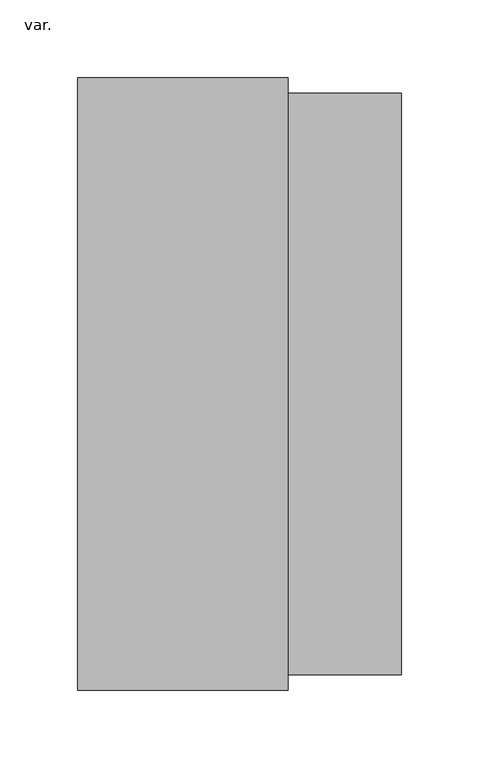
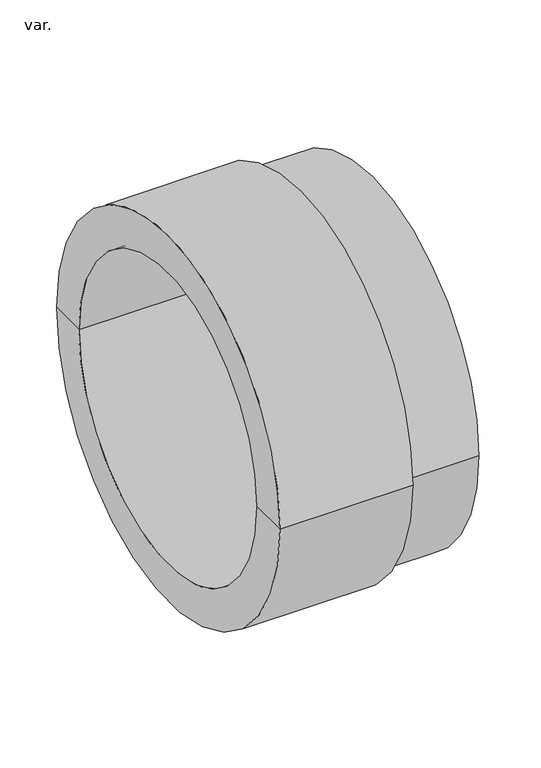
"""IFC4 building model written with IfcOpenShell, lengths in millimetres: pipe fitting geometry, PavcoWavin_UnionesDeTubería_NoUsarConectorSalida : var.."""

from ifc_helpers import new_model, si_unit, frame, origin, place, context, project, spatial, polyline, circle_curve, source, transform, mapped, element, save
from ifc_brep_helpers import plane_surface, cylinder_surface, revolved_surface, advanced_brep


def var_7e720924(model_context):
    return source(origin(), model_context, "Body", "AdvancedBrep", [
        advanced_brep(
        [(139.7546411, 187.5, 0.0), (139.7546411, 157.5, 0.0), (139.7546411, -157.5, 0.0), (139.7546411, -187.5, 0.0), (66.6046411, 187.5, 0.0), (66.6046411, -187.5, 0.0), (66.6046411, 197.5, 0.0), (66.6046411, -197.5, 0.0), (-69.2453589, 197.5, 0.0), (-69.2453589, -197.5, 0.0), (-69.2453589, 157.5, 0.0), (-69.2453589, -157.5, 0.0)],
        [
            (0, 1),
            (1, 2, circle_curve(frame((139.7546411, 0.0, 0.0), z_axis=(-1.0, 0.0, 0.0), x_axis=(0.0, -1.0, 0.0)), 157.5)),
            (2, 3),
            (3, 0, circle_curve(frame((139.7546411, 0.0, 0.0), z_axis=(1.0, 0.0, 0.0), x_axis=(0.0, -1.0, 0.0)), 187.5)),
            (2, 1, circle_curve(frame((139.7546411, 0.0, 0.0), z_axis=(-1.0, 0.0, 0.0), x_axis=(0.0, -1.0, 0.0)), 157.5)),
            (0, 3, circle_curve(frame((139.7546411, 0.0, 0.0), z_axis=(1.0, 0.0, 0.0), x_axis=(0.0, -1.0, 0.0)), 187.5)),
            (4, 0),
            (3, 5),
            (5, 4, circle_curve(frame((66.6046411, 0.0, 0.0), z_axis=(1.0, 0.0, 0.0), x_axis=(0.0, -1.0, 0.0)), 187.5)),
            (4, 5, circle_curve(frame((66.6046411, 0.0, 0.0), z_axis=(1.0, 0.0, 0.0), x_axis=(0.0, -1.0, 0.0)), 187.5)),
            (6, 4),
            (5, 7),
            (7, 6, circle_curve(frame((66.6046411, 0.0, 0.0), z_axis=(1.0, 0.0, 0.0), x_axis=(0.0, -1.0, 0.0)), 197.5)),
            (6, 7, circle_curve(frame((66.6046411, 0.0, 0.0), z_axis=(1.0, 0.0, 0.0), x_axis=(0.0, -1.0, 0.0)), 197.5)),
            (8, 6),
            (7, 9),
            (9, 8, circle_curve(frame((-69.2453589, 0.0, 0.0), z_axis=(1.0, 0.0, 0.0), x_axis=(0.0, -1.0, 0.0)), 197.5)),
            (8, 9, circle_curve(frame((-69.2453589, 0.0, 0.0), z_axis=(1.0, 0.0, 0.0), x_axis=(0.0, -1.0, 0.0)), 197.5)),
            (10, 8),
            (9, 11),
            (11, 10, circle_curve(frame((-69.2453589, 0.0, 0.0), z_axis=(1.0, 0.0, 0.0), x_axis=(0.0, -1.0, 0.0)), 157.5)),
            (10, 11, circle_curve(frame((-69.2453589, 0.0, 0.0), z_axis=(1.0, 0.0, 0.0), x_axis=(0.0, -1.0, 0.0)), 157.5)),
            (1, 10),
            (11, 2),
        ],
        [
            plane_surface(frame((139.7546411, 0.0, 0.0), z_axis=(1.0, 0.0, 0.0), x_axis=(0.0, -1.0, 0.0))),
            cylinder_surface(frame((-69.2453589, 0.0, 0.0), z_axis=(-1.0, 0.0, 0.0), x_axis=(0.0, -1.0, 0.0)), 187.5),
            plane_surface(frame((66.6046411, 0.0, 0.0), z_axis=(1.0, 0.0, 0.0), x_axis=(0.0, -1.0, 0.0))),
            cylinder_surface(frame((-69.2453589, 0.0, 0.0), z_axis=(-1.0, 0.0, 0.0), x_axis=(0.0, -1.0, 0.0)), 197.5),
            plane_surface(frame((-69.2453589, 0.0, 0.0), z_axis=(-1.0, 0.0, 0.0), x_axis=(0.0, -1.0, 0.0))),
            revolved_surface(polyline([(-69.2453589, -157.5, 0.0), (139.75464110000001, -157.5, 0.0)]), (-69.2453589, 0.0, 0.0), (-1.0, 0.0, 0.0)),
        ],
        [
            (0, [[1, 2, 3, 4]]),
            (0, [[-3, 5, -1, 6]]),
            (1, [[7, -4, 8, 9]]),
            (1, [[-8, -6, -7, 10]]),
            (2, [[11, -9, 12, 13]]),
            (2, [[-12, -10, -11, 14]]),
            (3, [[15, -13, 16, 17]]),
            (3, [[-16, -14, -15, 18]]),
            (4, [[19, -17, 20, 21]]),
            (4, [[-20, -18, -19, 22]]),
            (5, [[23, -21, 24, -2]]),
            (5, [[-24, -22, -23, -5]]),
        ],
    ),
    ])


if __name__ == "__main__":
    model = new_model("IFC4")
    model_context = context("Model", 3, world=origin())
    ifc_project = project(units=[si_unit("LENGTHUNIT", "METRE", prefix="MILLI")], contexts=[model_context])
    site = spatial("IfcSite", under=ifc_project)
    building = spatial("IfcBuilding", under=site)
    placement = place(None, origin())
    var_shape = var_7e720924(model_context)
    element("IfcPipeFitting", 1, ObjectType="PavcoWavin_UnionesDeTubería_NoUsarConectorSalida : var.", at=placement, inside=building, context=model_context, shape_type="MappedRepresentation", body=[
        mapped(var_shape, transform((0.0, 0.0, 0.0), x_axis=(1.0, 0.0, 0.0), y_axis=(0.0, 1.0, 0.0), z_axis=(0.0, 0.0, 1.0))),
    ])
    save(model, "model.ifc")
